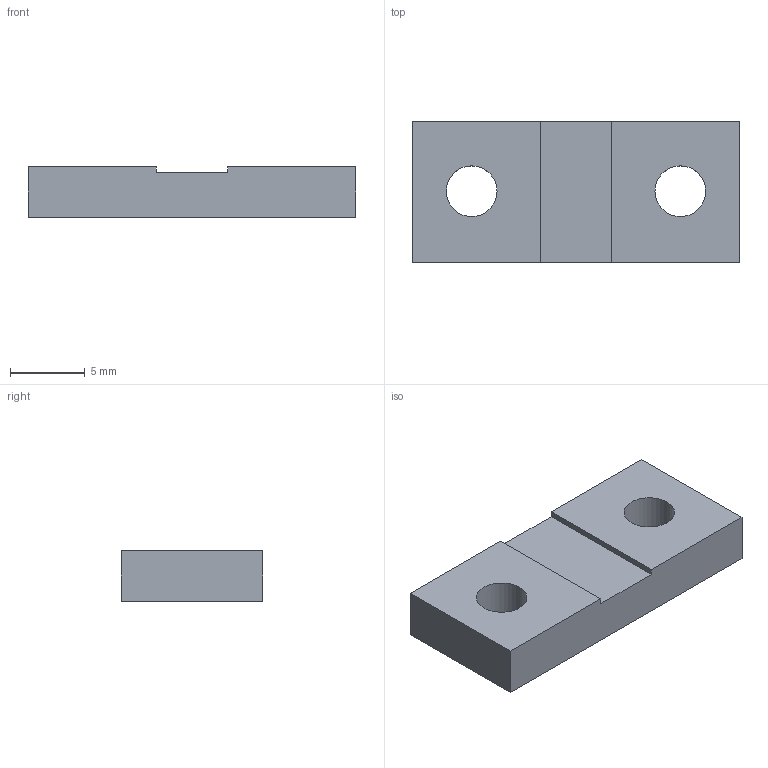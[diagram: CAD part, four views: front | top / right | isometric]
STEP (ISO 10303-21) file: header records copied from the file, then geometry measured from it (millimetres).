
FILE_DESCRIPTION(('Open CASCADE Model'),'2;1');
FILE_NAME('Open CASCADE Shape Model','2026-10-27T10:19:18',('Author'),( 'Open CASCADE'),'Open CASCADE STEP processor 8.0','build123d', 'Unknown');
FILE_SCHEMA(('AUTOMOTIVE_DESIGN { 1 0 10303 214 1 1 1 1 }'));
Length unit declared in the file: millimetre
Products named in the file (2): =>[0:1:1:2]; SOLID
Assembly tree (1 placements, depth 2):
  =>[0:1:1:2]
    SOLID
Bounding box: 22 x 9.5 x 3.4 mm (x, y, z)
Volume: 630.6 mm3; surface area: 672.3 mm2
Topology: 1 solids, 1 shells, 12 faces, 30 edges, 20 vertices
Faces by surface type: plane 10, cylinder 2
Full cylindrical faces by diameter (mm): 3.4 x2
Entity records: 768 total; most frequent: CARTESIAN_POINT 140, DIRECTION 106, LINE 66, VECTOR 66, ORIENTED_EDGE 60, PCURVE 60, DEFINITIONAL_REPRESENTATION 60, EDGE_CURVE 30
